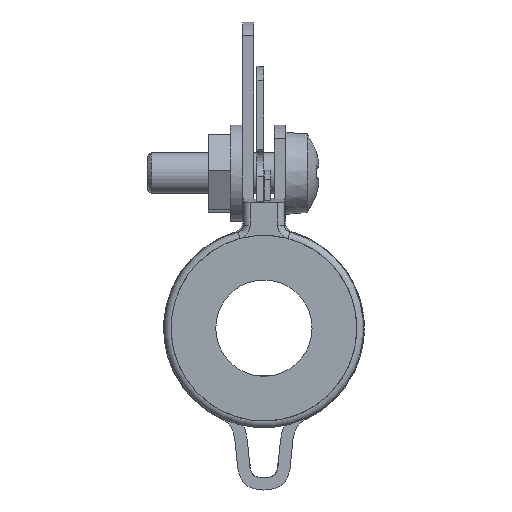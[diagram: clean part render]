
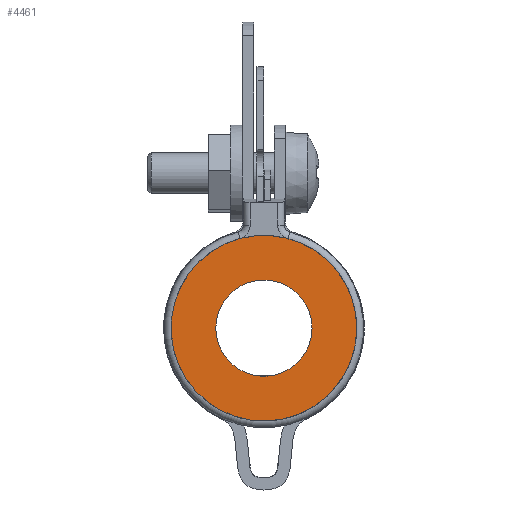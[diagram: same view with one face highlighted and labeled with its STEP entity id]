
A CAD part, front view. The second image highlights one B-rep face of the part: STEP entity #4461.
In plain terms, the highlighted planar face has unit normal (0, -1, 0).
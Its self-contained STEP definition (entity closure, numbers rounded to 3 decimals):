
#216=FACE_BOUND($,#755,.T.);
#454=FACE_OUTER_BOUND($,#754,.T.);
#754=EDGE_LOOP($,(#3772));
#755=EDGE_LOOP($,(#3773));
#999=CIRCLE($,#4909,6.75);
#1004=CIRCLE($,#4938,3.5);
#2012=VERTEX_POINT($,#7730);
#2023=VERTEX_POINT($,#7780);
#2597=EDGE_CURVE($,#2012,#2012,#999,.T.);
#2612=EDGE_CURVE($,#2023,#2023,#1004,.T.);
#3772=ORIENTED_EDGE($,*,*,#2597,.T.);
#3773=ORIENTED_EDGE($,*,*,#2612,.T.);
#3965=PLANE($,#4941);
#4461=ADVANCED_FACE($,(#454,#216),#3965,.T.);
#4909=AXIS2_PLACEMENT_3D($,#7731,#6114,#6115);
#4938=AXIS2_PLACEMENT_3D($,#7781,#6182,#6183);
#4941=AXIS2_PLACEMENT_3D($,#7784,#6188,#6189);
#6114=DIRECTION('center_axis',(0.,-1.,0.));
#6115=DIRECTION('ref_axis',(-1.,0.,0.));
#6182=DIRECTION('center_axis',(0.,1.,0.));
#6183=DIRECTION('ref_axis',(1.,0.,0.));
#6188=DIRECTION('center_axis',(0.,-1.,0.));
#6189=DIRECTION('ref_axis',(0.,0.,-1.));
#7730=CARTESIAN_POINT('',(6.75,0.,0.));
#7731=CARTESIAN_POINT('Origin',(0.,0.,0.));
#7780=CARTESIAN_POINT('',(-3.5,0.,0.));
#7781=CARTESIAN_POINT('Origin',(0.,0.,0.));
#7784=CARTESIAN_POINT('Origin',(0.,0.,0.));
